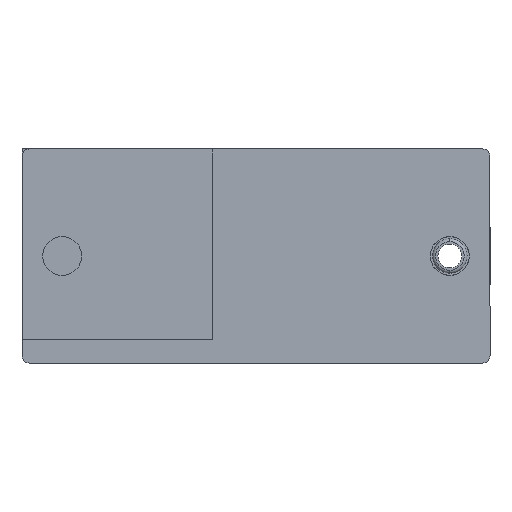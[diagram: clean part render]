
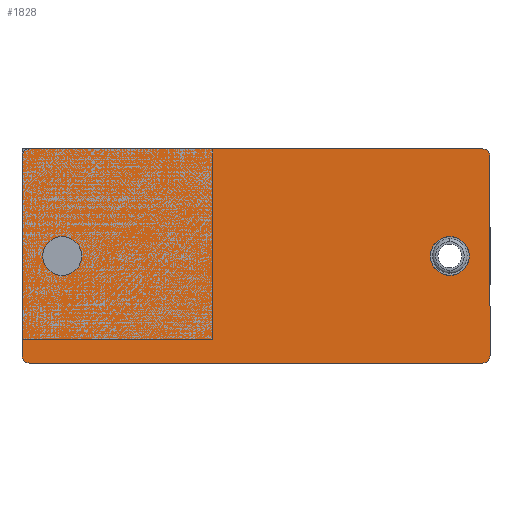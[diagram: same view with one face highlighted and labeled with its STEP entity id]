
A CAD part, front view. The second image highlights one B-rep face of the part: STEP entity #1828.
In plain terms, the highlighted planar face has unit normal (0, -1, 0).
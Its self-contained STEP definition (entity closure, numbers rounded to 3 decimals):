
#759 = EDGE_CURVE ( 'NONE', #32635, #13745, #29897, .T. ) ;
#1172 = CARTESIAN_POINT ( 'NONE',  ( 73.95, 0., -18.498 ) ) ;
#1432 = CARTESIAN_POINT ( 'NONE',  ( 80.9, 0., -1.3 ) ) ;
#1478 = VERTEX_POINT ( 'NONE', #33443 ) ;
#1828 = ADVANCED_FACE ( 'NONE', ( #5797, #11832, #25703 ), #14230, .T. ) ;
#2038 = CIRCLE ( 'NONE', #16976, 3.356 ) ;
#2777 = CARTESIAN_POINT ( 'NONE',  ( 6.95, 0., -18.498 ) ) ;
#3326 = AXIS2_PLACEMENT_3D ( 'NONE', #2777, #20869, #5396 ) ;
#3552 = LINE ( 'NONE', #33245, #23478 ) ;
#3714 = AXIS2_PLACEMENT_3D ( 'NONE', #1172, #19366, #3769 ) ;
#3769 = DIRECTION ( 'NONE',  ( 0., 0., -1. ) ) ;
#3974 = EDGE_CURVE ( 'NONE', #14302, #27782, #2038, .T. ) ;
#4163 = AXIS2_PLACEMENT_3D ( 'NONE', #12865, #31146, #15508 ) ;
#4496 = VECTOR ( 'NONE', #28171, 1000. ) ;
#4761 = CIRCLE ( 'NONE', #3326, 3.356 ) ;
#5330 = LINE ( 'NONE', #7383, #4496 ) ;
#5396 = DIRECTION ( 'NONE',  ( 0., 0., -1. ) ) ;
#5797 = FACE_BOUND ( 'NONE', #17079, .T. ) ;
#5925 = EDGE_CURVE ( 'NONE', #8069, #8310, #6030, .T. ) ;
#6030 = CIRCLE ( 'NONE', #30190, 1.3 ) ;
#6034 = EDGE_CURVE ( 'NONE', #8069, #1478, #3552, .T. ) ;
#7084 = EDGE_CURVE ( 'NONE', #9651, #13745, #32716, .T. ) ;
#7108 = CARTESIAN_POINT ( 'NONE',  ( 79.6, 0., -1.3 ) ) ;
#7164 = LINE ( 'NONE', #14271, #27099 ) ;
#7383 = CARTESIAN_POINT ( 'NONE',  ( 0., 0., 0. ) ) ;
#8069 = VERTEX_POINT ( 'NONE', #1432 ) ;
#8310 = VERTEX_POINT ( 'NONE', #23093 ) ;
#8429 = ORIENTED_EDGE ( 'NONE', *, *, #10736, .T. ) ;
#8922 = VERTEX_POINT ( 'NONE', #25792 ) ;
#9567 = DIRECTION ( 'NONE',  ( 0., -1., 0. ) ) ;
#9651 = VERTEX_POINT ( 'NONE', #14335 ) ;
#9708 = DIRECTION ( 'NONE',  ( 0., 0., -1. ) ) ;
#10132 = VERTEX_POINT ( 'NONE', #11520 ) ;
#10268 = DIRECTION ( 'NONE',  ( 0., -1., 0. ) ) ;
#10477 = ORIENTED_EDGE ( 'NONE', *, *, #6034, .F. ) ;
#10736 = EDGE_CURVE ( 'NONE', #9651, #8922, #28830, .T. ) ;
#11097 = DIRECTION ( 'NONE',  ( 0., -1., 0. ) ) ;
#11304 = DIRECTION ( 'NONE',  ( 0., 0., -1. ) ) ;
#11453 = CARTESIAN_POINT ( 'NONE',  ( 73.95, 0., -21.854 ) ) ;
#11520 = CARTESIAN_POINT ( 'NONE',  ( 6.95, 0., -15.142 ) ) ;
#11662 = EDGE_LOOP ( 'NONE', ( #17215, #24817, #10477, #14236, #31915, #12097, #12452, #8429 ) ) ;
#11694 = EDGE_CURVE ( 'NONE', #10132, #11961, #4761, .T. ) ;
#11790 = DIRECTION ( 'NONE',  ( 0., -1., 0. ) ) ;
#11824 = DIRECTION ( 'NONE',  ( -1., 0., 0. ) ) ;
#11832 = FACE_BOUND ( 'NONE', #22994, .T. ) ;
#11916 = VECTOR ( 'NONE', #22574, 1000. ) ;
#11961 = VERTEX_POINT ( 'NONE', #30035 ) ;
#12097 = ORIENTED_EDGE ( 'NONE', *, *, #759, .T. ) ;
#12128 = EDGE_CURVE ( 'NONE', #32635, #8310, #5330, .T. ) ;
#12399 = DIRECTION ( 'NONE',  ( 0., 0., -1. ) ) ;
#12452 = ORIENTED_EDGE ( 'NONE', *, *, #7084, .F. ) ;
#12833 = AXIS2_PLACEMENT_3D ( 'NONE', #26919, #29454, #11304 ) ;
#12865 = CARTESIAN_POINT ( 'NONE',  ( 79.6, 0., -35.7 ) ) ;
#12966 = CIRCLE ( 'NONE', #3714, 3.356 ) ;
#13570 = EDGE_CURVE ( 'NONE', #19293, #8922, #7164, .T. ) ;
#13745 = VERTEX_POINT ( 'NONE', #22977 ) ;
#14230 = PLANE ( 'NONE',  #20525 ) ;
#14236 = ORIENTED_EDGE ( 'NONE', *, *, #5925, .T. ) ;
#14271 = CARTESIAN_POINT ( 'NONE',  ( 0., 0., -37. ) ) ;
#14302 = VERTEX_POINT ( 'NONE', #25582 ) ;
#14335 = CARTESIAN_POINT ( 'NONE',  ( 0., 0., -35.7 ) ) ;
#15195 = ORIENTED_EDGE ( 'NONE', *, *, #11694, .F. ) ;
#15508 = DIRECTION ( 'NONE',  ( 0., 0., -1. ) ) ;
#16976 = AXIS2_PLACEMENT_3D ( 'NONE', #26720, #11097, #29358 ) ;
#17079 = EDGE_LOOP ( 'NONE', ( #32075, #28990 ) ) ;
#17097 = AXIS2_PLACEMENT_3D ( 'NONE', #25155, #9567, #27770 ) ;
#17215 = ORIENTED_EDGE ( 'NONE', *, *, #13570, .F. ) ;
#17710 = CIRCLE ( 'NONE', #17097, 3.356 ) ;
#19293 = VERTEX_POINT ( 'NONE', #26719 ) ;
#19366 = DIRECTION ( 'NONE',  ( 0., -1., 0. ) ) ;
#19999 = ORIENTED_EDGE ( 'NONE', *, *, #27352, .F. ) ;
#20033 = CARTESIAN_POINT ( 'NONE',  ( 0., 0., 0. ) ) ;
#20077 = AXIS2_PLACEMENT_3D ( 'NONE', #25890, #10268, #28487 ) ;
#20525 = AXIS2_PLACEMENT_3D ( 'NONE', #27400, #11790, #30017 ) ;
#20869 = DIRECTION ( 'NONE',  ( 0., -1., 0. ) ) ;
#21082 = CIRCLE ( 'NONE', #4163, 1.3 ) ;
#22102 = EDGE_CURVE ( 'NONE', #27782, #14302, #12966, .T. ) ;
#22443 = EDGE_CURVE ( 'NONE', #19293, #1478, #21082, .T. ) ;
#22574 = DIRECTION ( 'NONE',  ( 0., 0., 1. ) ) ;
#22873 = CARTESIAN_POINT ( 'NONE',  ( 1.3, 0., 0. ) ) ;
#22977 = CARTESIAN_POINT ( 'NONE',  ( 0., 0., -1.3 ) ) ;
#22994 = EDGE_LOOP ( 'NONE', ( #19999, #15195 ) ) ;
#23093 = CARTESIAN_POINT ( 'NONE',  ( 79.6, 0., 0. ) ) ;
#23478 = VECTOR ( 'NONE', #12399, 1000. ) ;
#24817 = ORIENTED_EDGE ( 'NONE', *, *, #22443, .T. ) ;
#25155 = CARTESIAN_POINT ( 'NONE',  ( 6.95, 0., -18.498 ) ) ;
#25314 = DIRECTION ( 'NONE',  ( 0., -1., 0. ) ) ;
#25582 = CARTESIAN_POINT ( 'NONE',  ( 73.95, 0., -15.142 ) ) ;
#25703 = FACE_OUTER_BOUND ( 'NONE', #11662, .T. ) ;
#25792 = CARTESIAN_POINT ( 'NONE',  ( 1.3, 0., -37. ) ) ;
#25890 = CARTESIAN_POINT ( 'NONE',  ( 1.3, 0., -35.7 ) ) ;
#26720 = CARTESIAN_POINT ( 'NONE',  ( 73.95, 0., -18.498 ) ) ;
#26719 = CARTESIAN_POINT ( 'NONE',  ( 79.6, 0., -37. ) ) ;
#26919 = CARTESIAN_POINT ( 'NONE',  ( 1.3, 0., -1.3 ) ) ;
#27099 = VECTOR ( 'NONE', #11824, 1000. ) ;
#27352 = EDGE_CURVE ( 'NONE', #11961, #10132, #17710, .T. ) ;
#27400 = CARTESIAN_POINT ( 'NONE',  ( 0., 0., 0. ) ) ;
#27770 = DIRECTION ( 'NONE',  ( 0., 0., -1. ) ) ;
#27782 = VERTEX_POINT ( 'NONE', #11453 ) ;
#28171 = DIRECTION ( 'NONE',  ( 1., 0., 0. ) ) ;
#28487 = DIRECTION ( 'NONE',  ( 0., 0., -1. ) ) ;
#28830 = CIRCLE ( 'NONE', #20077, 1.3 ) ;
#28990 = ORIENTED_EDGE ( 'NONE', *, *, #3974, .F. ) ;
#29358 = DIRECTION ( 'NONE',  ( 0., 0., -1. ) ) ;
#29454 = DIRECTION ( 'NONE',  ( 0., -1., 0. ) ) ;
#29897 = CIRCLE ( 'NONE', #12833, 1.3 ) ;
#30017 = DIRECTION ( 'NONE',  ( 0., 0., -1. ) ) ;
#30035 = CARTESIAN_POINT ( 'NONE',  ( 6.95, 0., -21.854 ) ) ;
#30190 = AXIS2_PLACEMENT_3D ( 'NONE', #7108, #25314, #9708 ) ;
#31146 = DIRECTION ( 'NONE',  ( 0., -1., 0. ) ) ;
#31915 = ORIENTED_EDGE ( 'NONE', *, *, #12128, .F. ) ;
#32075 = ORIENTED_EDGE ( 'NONE', *, *, #22102, .F. ) ;
#32635 = VERTEX_POINT ( 'NONE', #22873 ) ;
#32716 = LINE ( 'NONE', #20033, #11916 ) ;
#33245 = CARTESIAN_POINT ( 'NONE',  ( 80.9, 0., 0. ) ) ;
#33443 = CARTESIAN_POINT ( 'NONE',  ( 80.9, 0., -35.7 ) ) ;
